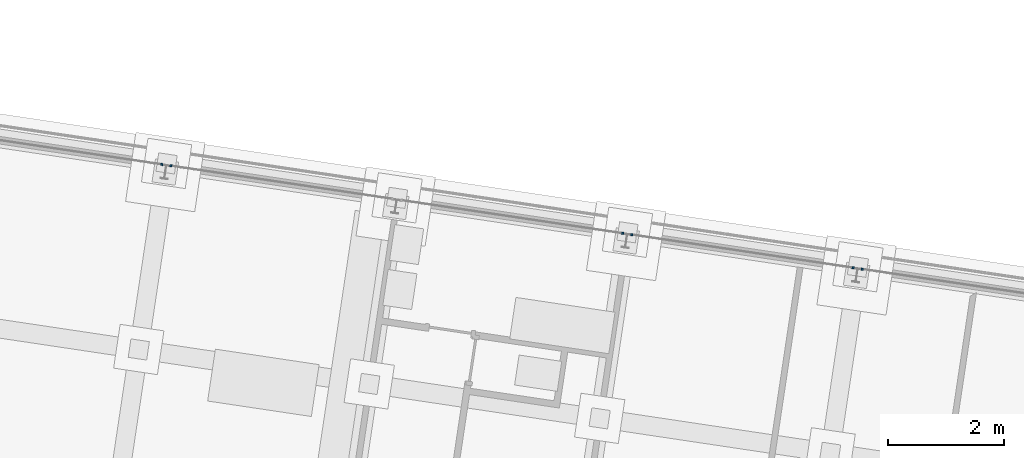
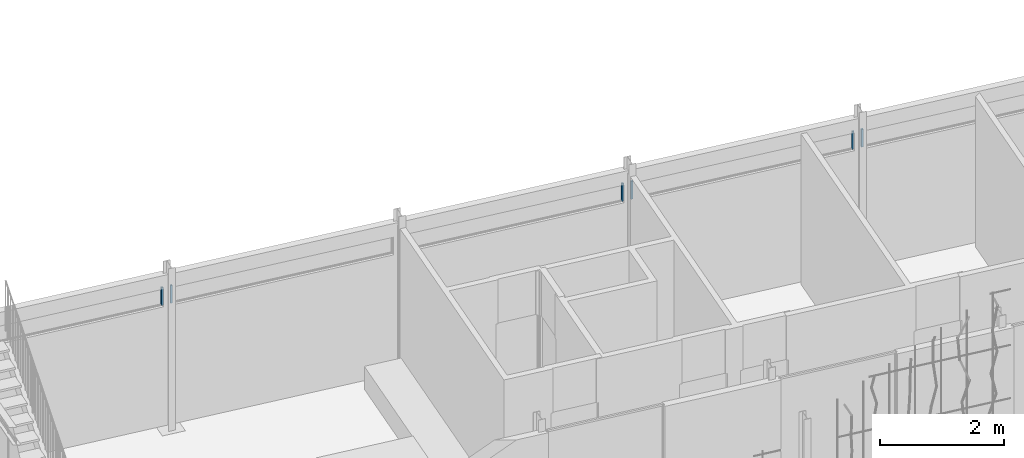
# One storey, part 124 of 143: 6 members.
"""IFC4 building model written with IfcOpenShell, lengths in metres."""

from ifc_helpers import new_model, si_unit, direction, frame, origin_with_axes, place, context, subcontext, project, spatial, rectangle, extrude, material, material_profile, profile_set, profile_usage, type_object, element, save


model = new_model("IFC4")

# Units and contexts
model_context = context("Model", 3, precision=1e-05, world=origin_with_axes(), true_north=direction((0.0, 1.0)))
body_context = subcontext(model_context, "Body", "Model", "MODEL_VIEW")
ifc_project = project(units=[si_unit("VOLUMEUNIT", "CUBIC_METRE"), si_unit("LENGTHUNIT", "METRE"), si_unit("AREAUNIT", "SQUARE_METRE")], contexts=[model_context])

# Site, building, storey
site_placement = place(None, origin_with_axes())
site = spatial("IfcSite", under=ifc_project, at=site_placement, Name="Lares · Rua das Mercês · artigo 4771")
building_placement = place(site_placement, frame((15.0, 9.7, 15.8), z_axis=(0.0, 0.0, 1.0), x_axis=(0.989015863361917, -0.147809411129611, 0.0)))
building = spatial("IfcBuilding", under=site, at=building_placement, Name="Casa Sobreposta")
storey_placement = place(building_placement, origin_with_axes())
storey = spatial("IfcBuildingStorey", under=building, at=storey_placement, Name="00 · Habitação e estacionamento", Elevation=15.8)

# Members
ifc_material = material(Name="Aço pintado / Stahl lackiert", Category="steel")
ifc_material_profile = material_profile(ifc_material, rectangle(XDim=0.035, YDim=0.035))
ifc_profile_set = profile_set([ifc_material_profile], Name="R0.035")
ifc_profile_usage_1 = profile_usage(ifc_profile_set)
member_type = type_object("IfcMemberType", Name="R0.035 / steel", PredefinedType="NOTDEFINED", material=ifc_profile_set)
member_1_placement = place(storey_placement, frame((3.92, 6.4, 2.35), z_axis=(0.0, 0.0, 1.0), x_axis=(1.0, 0.0, 0.0)))
element("IfcMember", 1, at=member_1_placement, inside=storey, type_object=member_type, material=ifc_profile_usage_1, Name="Rasgo norte 1 · montante", context=body_context, shape_type="SweptSolid", body=[
    extrude(rectangle(XDim=0.035, YDim=0.035), origin_with_axes(), (0.0, 0.0, 1.0), 0.35),
])
ifc_profile_usage_2 = profile_usage(ifc_profile_set)
member_2_placement = place(storey_placement, frame((4.08, 6.4, 2.35), z_axis=(0.0, 0.0, 1.0), x_axis=(1.0, 0.0, 0.0)))
element("IfcMember", 2, at=member_2_placement, inside=storey, type_object=member_type, material=ifc_profile_usage_2, Name="Rasgo norte 2 · montante", context=body_context, shape_type="SweptSolid", body=[
    extrude(rectangle(XDim=0.035, YDim=0.035), origin_with_axes(), (0.0, 0.0, 1.0), 0.35),
])
ifc_profile_usage_3 = profile_usage(ifc_profile_set)
member_3_placement = place(storey_placement, frame((11.92, 6.4, 2.35), z_axis=(0.0, 0.0, 1.0), x_axis=(1.0, 0.0, 0.0)))
element("IfcMember", 3, at=member_3_placement, inside=storey, type_object=member_type, material=ifc_profile_usage_3, Name="Rasgo norte 3 · montante", context=body_context, shape_type="SweptSolid", body=[
    extrude(rectangle(XDim=0.035, YDim=0.035), origin_with_axes(), (0.0, 0.0, 1.0), 0.35),
])
ifc_profile_usage_4 = profile_usage(ifc_profile_set)
member_4_placement = place(storey_placement, frame((12.08, 6.4, 2.35), z_axis=(0.0, 0.0, 1.0), x_axis=(1.0, 0.0, 0.0)))
element("IfcMember", 4, at=member_4_placement, inside=storey, type_object=member_type, material=ifc_profile_usage_4, Name="Rasgo norte 4 · montante", context=body_context, shape_type="SweptSolid", body=[
    extrude(rectangle(XDim=0.035, YDim=0.035), origin_with_axes(), (0.0, 0.0, 1.0), 0.35),
])
ifc_profile_usage_5 = profile_usage(ifc_profile_set)
member_5_placement = place(storey_placement, frame((15.92, 6.4, 2.35), z_axis=(0.0, 0.0, 1.0), x_axis=(1.0, 0.0, 0.0)))
element("IfcMember", 5, at=member_5_placement, inside=storey, type_object=member_type, material=ifc_profile_usage_5, Name="Rasgo norte 4 · montante", context=body_context, shape_type="SweptSolid", body=[
    extrude(rectangle(XDim=0.035, YDim=0.035), origin_with_axes(), (0.0, 0.0, 1.0), 0.35),
])
ifc_profile_usage_6 = profile_usage(ifc_profile_set)
member_6_placement = place(storey_placement, frame((16.08, 6.4, 2.35), z_axis=(0.0, 0.0, 1.0), x_axis=(1.0, 0.0, 0.0)))
element("IfcMember", 6, at=member_6_placement, inside=storey, type_object=member_type, material=ifc_profile_usage_6, Name="Rasgo norte 5 · montante", context=body_context, shape_type="SweptSolid", body=[
    extrude(rectangle(XDim=0.035, YDim=0.035), origin_with_axes(), (0.0, 0.0, 1.0), 0.35),
])

save(model, "model.ifc")
